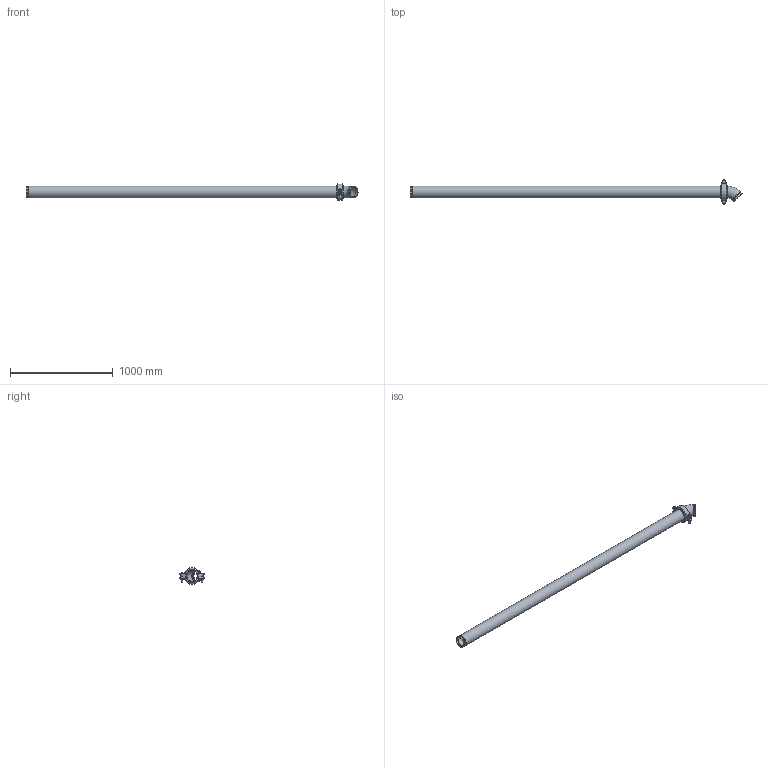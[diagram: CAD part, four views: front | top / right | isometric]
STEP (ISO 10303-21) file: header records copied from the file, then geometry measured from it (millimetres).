
FILE_DESCRIPTION(/* description */ ('VIC LONG RUN FITTING No R24 (OGS)','CAx-IF Rec.Pracs.---Representation and Presentation of Product Manufacturing Information (PMI)---4.0---2014-10-13'),/* implementation_level */ '2;1');
FILE_NAME(/* name */ 'C:\Users\Vjadhav\AppData\Roaming\Autodesk\ApplicationPlugins\Back Up\Victaulic_IPS_Long Run Fittings_No R24 (OGS)\Victaulic_IPS_Long Run Fittings_No R24 (OGS)_4 (100).stp',/* time_stamp */ '2020-10-13T19:13:46+06:00',/* author */ ('Vjadhav'),/* organization */ ('Victaulic'),/* preprocessor_version */ 'ST-DEVELOPER v17.2',/* originating_system */ 'Autodesk Inventor 2019',/* authorisation */ '');
FILE_SCHEMA (('AP242_MANAGED_MODEL_BASED_3D_ENGINEERING_MIM_LF { 1 0 10303 442 1 1 4 }'));
Length unit declared in the file: inch
Products named in the file (4): R24-04.0; 011-04.0; 177N-04.0; Pipe_R13-04.0
Assembly tree (3 placements, depth 2):
  R24-04.0
    011-04.0
    177N-04.0
    Pipe_R13-04.0
Bounding box: 3228.14 x 237.12 x 161.45 mm (x, y, z)
Volume: 7249523.1 mm3; surface area: 2283927.6 mm2
Topology: 3 solids, 3 shells, 117 faces, 309 edges, 210 vertices
Faces by surface type: plane 68, cylinder 37, torus 6, cone 4, sphere 2
Full cylindrical faces by diameter (mm): 15.875 x2, 23.495 x2, 101.6 x1, 102.26 x3, 110.084 x4, 114.3 x7
Entity records: 4060 total; most frequent: CARTESIAN_POINT 719, DIRECTION 677, ORIENTED_EDGE 626, EDGE_CURVE 313, AXIS2_PLACEMENT_3D 256, VERTEX_POINT 210, LINE 165, VECTOR 165
